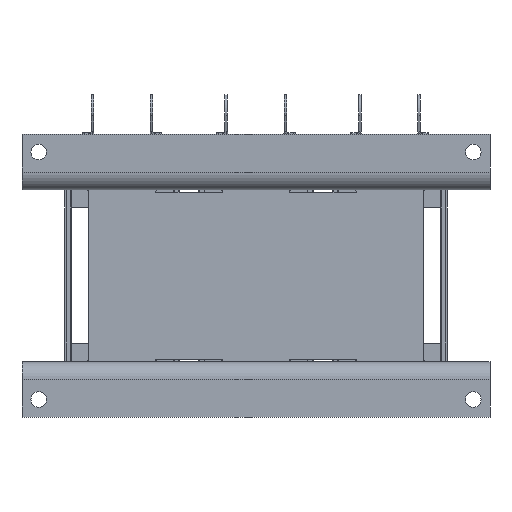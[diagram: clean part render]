
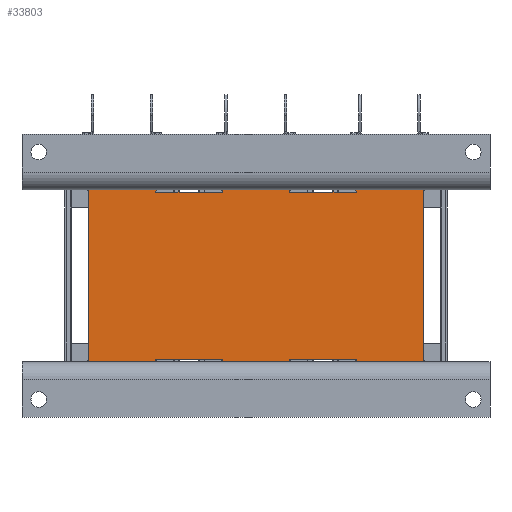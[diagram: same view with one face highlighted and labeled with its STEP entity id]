
A CAD part, front view. The second image highlights one B-rep face of the part: STEP entity #33803.
In plain terms, the highlighted planar face has unit normal (0, -1, 0).
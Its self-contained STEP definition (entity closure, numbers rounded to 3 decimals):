
#2320=PLANE('',#36478);
#3897=FACE_OUTER_BOUND('',#5994,.T.);
#5994=EDGE_LOOP('',(#27371,#27372,#27373,#27374,#27375,#27376,#27377,#27378,
#27379,#27380,#27381,#27382,#27383,#27384,#27385,#27386,#27387,#27388,#27389,
#27390));
#7741=LINE('',#52063,#10642);
#7751=LINE('',#52083,#10652);
#7788=LINE('',#52158,#10689);
#7798=LINE('',#52178,#10699);
#7822=LINE('',#52226,#10723);
#7837=LINE('',#52255,#10738);
#7862=LINE('',#52304,#10763);
#7878=LINE('',#52336,#10779);
#7923=LINE('',#52445,#10824);
#7924=LINE('',#52446,#10825);
#7926=LINE('',#52448,#10827);
#7978=LINE('',#52611,#10879);
#7980=LINE('',#52614,#10881);
#7984=LINE('',#52620,#10885);
#8725=LINE('',#55426,#11626);
#8726=LINE('',#55427,#11627);
#8727=LINE('',#55428,#11628);
#8728=LINE('',#55429,#11629);
#8729=LINE('',#55430,#11630);
#8730=LINE('',#55431,#11631);
#10642=VECTOR('',#40419,10.);
#10652=VECTOR('',#40429,10.);
#10689=VECTOR('',#40474,10.);
#10699=VECTOR('',#40484,10.);
#10723=VECTOR('',#40510,10.);
#10738=VECTOR('',#40525,10.);
#10763=VECTOR('',#40558,10.);
#10779=VECTOR('',#40574,10.);
#10824=VECTOR('',#40667,10.);
#10825=VECTOR('',#40668,10.);
#10827=VECTOR('',#40670,10.);
#10879=VECTOR('',#40830,10.);
#10881=VECTOR('',#40832,10.);
#10885=VECTOR('',#40836,10.);
#11626=VECTOR('',#43251,10.);
#11627=VECTOR('',#43252,10.);
#11628=VECTOR('',#43253,10.);
#11629=VECTOR('',#43254,10.);
#11630=VECTOR('',#43255,10.);
#11631=VECTOR('',#43256,10.);
#14971=VERTEX_POINT('',#52060);
#14972=VERTEX_POINT('',#52062);
#14981=VERTEX_POINT('',#52080);
#14982=VERTEX_POINT('',#52082);
#15015=VERTEX_POINT('',#52155);
#15016=VERTEX_POINT('',#52157);
#15025=VERTEX_POINT('',#52175);
#15026=VERTEX_POINT('',#52177);
#15048=VERTEX_POINT('',#52223);
#15049=VERTEX_POINT('',#52225);
#15062=VERTEX_POINT('',#52252);
#15063=VERTEX_POINT('',#52254);
#15082=VERTEX_POINT('',#52301);
#15083=VERTEX_POINT('',#52303);
#15098=VERTEX_POINT('',#52333);
#15099=VERTEX_POINT('',#52335);
#15137=VERTEX_POINT('',#52439);
#15139=VERTEX_POINT('',#52443);
#15197=VERTEX_POINT('',#52613);
#15199=VERTEX_POINT('',#52618);
#18562=EDGE_CURVE('',#14971,#14972,#7741,.T.);
#18572=EDGE_CURVE('',#14981,#14982,#7751,.T.);
#18609=EDGE_CURVE('',#15015,#15016,#7788,.T.);
#18619=EDGE_CURVE('',#15025,#15026,#7798,.T.);
#18643=EDGE_CURVE('',#15049,#15048,#7822,.T.);
#18658=EDGE_CURVE('',#15063,#15062,#7837,.T.);
#18683=EDGE_CURVE('',#15083,#15082,#7862,.T.);
#18699=EDGE_CURVE('',#15099,#15098,#7878,.T.);
#18753=EDGE_CURVE('',#15139,#15098,#7923,.T.);
#18754=EDGE_CURVE('',#15026,#15062,#7924,.T.);
#18756=EDGE_CURVE('',#14982,#15137,#7926,.T.);
#18835=EDGE_CURVE('',#15049,#15015,#7978,.T.);
#18837=EDGE_CURVE('',#15083,#15197,#7980,.T.);
#18841=EDGE_CURVE('',#15199,#14971,#7984,.T.);
#20017=EDGE_CURVE('',#15197,#15139,#8725,.T.);
#20018=EDGE_CURVE('',#15016,#15082,#8726,.T.);
#20019=EDGE_CURVE('',#14972,#15048,#8727,.T.);
#20020=EDGE_CURVE('',#15199,#15137,#8728,.T.);
#20021=EDGE_CURVE('',#15063,#14981,#8729,.T.);
#20022=EDGE_CURVE('',#15099,#15025,#8730,.T.);
#27371=ORIENTED_EDGE('',*,*,#20017,.F.);
#27372=ORIENTED_EDGE('',*,*,#18837,.F.);
#27373=ORIENTED_EDGE('',*,*,#18683,.T.);
#27374=ORIENTED_EDGE('',*,*,#20018,.F.);
#27375=ORIENTED_EDGE('',*,*,#18609,.F.);
#27376=ORIENTED_EDGE('',*,*,#18835,.F.);
#27377=ORIENTED_EDGE('',*,*,#18643,.T.);
#27378=ORIENTED_EDGE('',*,*,#20019,.F.);
#27379=ORIENTED_EDGE('',*,*,#18562,.F.);
#27380=ORIENTED_EDGE('',*,*,#18841,.F.);
#27381=ORIENTED_EDGE('',*,*,#20020,.T.);
#27382=ORIENTED_EDGE('',*,*,#18756,.F.);
#27383=ORIENTED_EDGE('',*,*,#18572,.F.);
#27384=ORIENTED_EDGE('',*,*,#20021,.F.);
#27385=ORIENTED_EDGE('',*,*,#18658,.T.);
#27386=ORIENTED_EDGE('',*,*,#18754,.F.);
#27387=ORIENTED_EDGE('',*,*,#18619,.F.);
#27388=ORIENTED_EDGE('',*,*,#20022,.F.);
#27389=ORIENTED_EDGE('',*,*,#18699,.T.);
#27390=ORIENTED_EDGE('',*,*,#18753,.F.);
#33803=ADVANCED_FACE('',(#3897),#2320,.T.);
#36478=AXIS2_PLACEMENT_3D('',#55425,#43249,#43250);
#40419=DIRECTION('',(0.,0.,1.));
#40429=DIRECTION('',(0.,0.,1.));
#40474=DIRECTION('',(0.,0.,1.));
#40484=DIRECTION('',(0.,0.,1.));
#40510=DIRECTION('',(0.,0.,1.));
#40525=DIRECTION('',(0.,0.,1.));
#40558=DIRECTION('',(0.,0.,1.));
#40574=DIRECTION('',(0.,0.,1.));
#40667=DIRECTION('',(1.,0.,0.));
#40668=DIRECTION('',(1.,0.,0.));
#40670=DIRECTION('',(1.,0.,0.));
#40830=DIRECTION('',(-1.,0.,0.));
#40832=DIRECTION('',(-1.,0.,0.));
#40836=DIRECTION('',(-1.,0.,0.));
#43249=DIRECTION('center_axis',(0.,-1.,0.));
#43250=DIRECTION('ref_axis',(-1.,0.,0.));
#43251=DIRECTION('',(0.,0.,1.));
#43252=DIRECTION('',(-1.,0.,0.));
#43253=DIRECTION('',(-1.,0.,0.));
#43254=DIRECTION('',(0.,0.,1.));
#43255=DIRECTION('',(1.,0.,0.));
#43256=DIRECTION('',(1.,0.,0.));
#52060=CARTESIAN_POINT('',(45.,-75.,-38.5));
#52062=CARTESIAN_POINT('',(45.,-75.,-37.5));
#52063=CARTESIAN_POINT('',(45.,-75.,-38.));
#52080=CARTESIAN_POINT('',(45.,-75.,37.5));
#52082=CARTESIAN_POINT('',(45.,-75.,38.5));
#52083=CARTESIAN_POINT('',(45.,-75.,38.));
#52155=CARTESIAN_POINT('',(-15.,-75.,-38.5));
#52157=CARTESIAN_POINT('',(-15.,-75.,-37.5));
#52158=CARTESIAN_POINT('',(-15.,-75.,-38.));
#52175=CARTESIAN_POINT('',(-15.,-75.,37.5));
#52177=CARTESIAN_POINT('',(-15.,-75.,38.5));
#52178=CARTESIAN_POINT('',(-15.,-75.,38.));
#52223=CARTESIAN_POINT('',(15.,-75.,-37.5));
#52225=CARTESIAN_POINT('',(15.,-75.,-38.5));
#52226=CARTESIAN_POINT('',(15.,-75.,-38.));
#52252=CARTESIAN_POINT('',(15.,-75.,38.5));
#52254=CARTESIAN_POINT('',(15.,-75.,37.5));
#52255=CARTESIAN_POINT('',(15.,-75.,38.));
#52301=CARTESIAN_POINT('',(-45.,-75.,-37.5));
#52303=CARTESIAN_POINT('',(-45.,-75.,-38.5));
#52304=CARTESIAN_POINT('',(-45.,-75.,-38.));
#52333=CARTESIAN_POINT('',(-45.,-75.,38.5));
#52335=CARTESIAN_POINT('',(-45.,-75.,37.5));
#52336=CARTESIAN_POINT('',(-45.,-75.,38.));
#52439=CARTESIAN_POINT('',(75.,-75.,38.5));
#52443=CARTESIAN_POINT('',(-75.,-75.,38.5));
#52445=CARTESIAN_POINT('',(-22.5,-75.,38.5));
#52446=CARTESIAN_POINT('',(7.5,-75.,38.5));
#52448=CARTESIAN_POINT('',(37.5,-75.,38.5));
#52611=CARTESIAN_POINT('',(7.5,-75.,-38.5));
#52613=CARTESIAN_POINT('',(-75.,-75.,-38.5));
#52614=CARTESIAN_POINT('',(-22.5,-75.,-38.5));
#52618=CARTESIAN_POINT('',(75.,-75.,-38.5));
#52620=CARTESIAN_POINT('',(37.5,-75.,-38.5));
#55425=CARTESIAN_POINT('Origin',(75.,-75.,-38.));
#55426=CARTESIAN_POINT('',(-75.,-75.,-38.));
#55427=CARTESIAN_POINT('',(-75.,-75.,-37.5));
#55428=CARTESIAN_POINT('',(-75.,-75.,-37.5));
#55429=CARTESIAN_POINT('',(75.,-75.,-38.));
#55430=CARTESIAN_POINT('',(-75.,-75.,37.5));
#55431=CARTESIAN_POINT('',(-75.,-75.,37.5));
